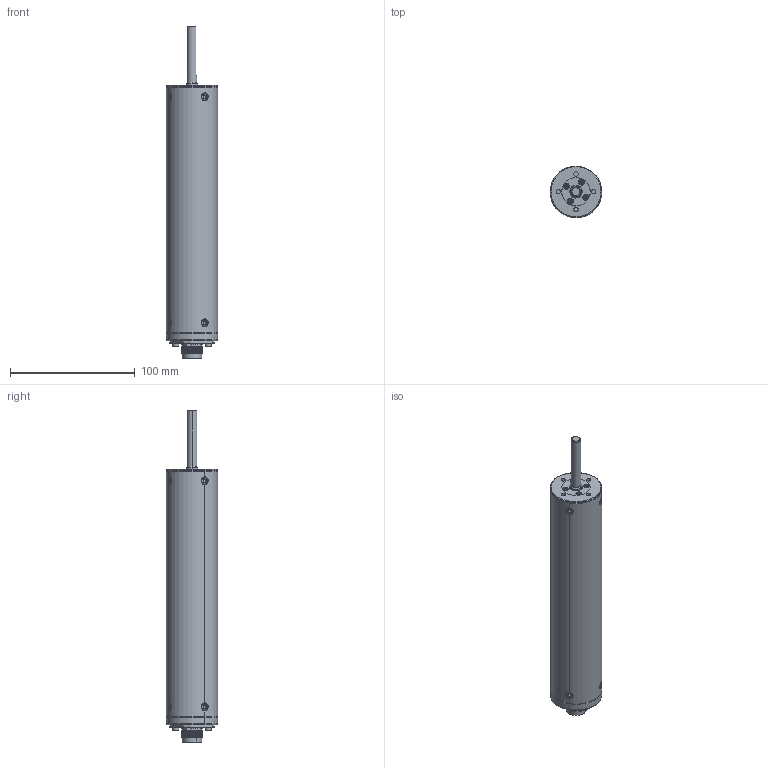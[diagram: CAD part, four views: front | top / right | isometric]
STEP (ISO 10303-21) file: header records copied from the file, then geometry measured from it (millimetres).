
FILE_DESCRIPTION (( 'STEP AP203' ), '1' );
FILE_NAME ('MDM-SR20-UM1000-1.STEP', '2023-08-09T05:05:40', ( '' ), ( '' ), 'SwSTEP 2.0', 'SolidWorks 2021', '' );
FILE_SCHEMA (( 'CONFIG_CONTROL_DESIGN' ));
Length unit declared in the file: inch
Products named in the file (1): MDM-SR20-UM1000-1
Bounding box: 41.27 x 41.27 x 266.54 mm (x, y, z)
Surface area: 36799.5 mm2 (no closed solid volume)
Topology: 0 solids, 31 shells, 420 faces, 1030 edges, 639 vertices
Faces by surface type: cone 153, plane 130, cylinder 126, torus 8, bspline 3
Entity records: 16808 total; most frequent: CARTESIAN_POINT 7175, DIRECTION 1992, ORIENTED_EDGE 1853, EDGE_CURVE 1026, AXIS2_PLACEMENT_3D 782, VERTEX_POINT 639, EDGE_LOOP 468, VECTOR 428
